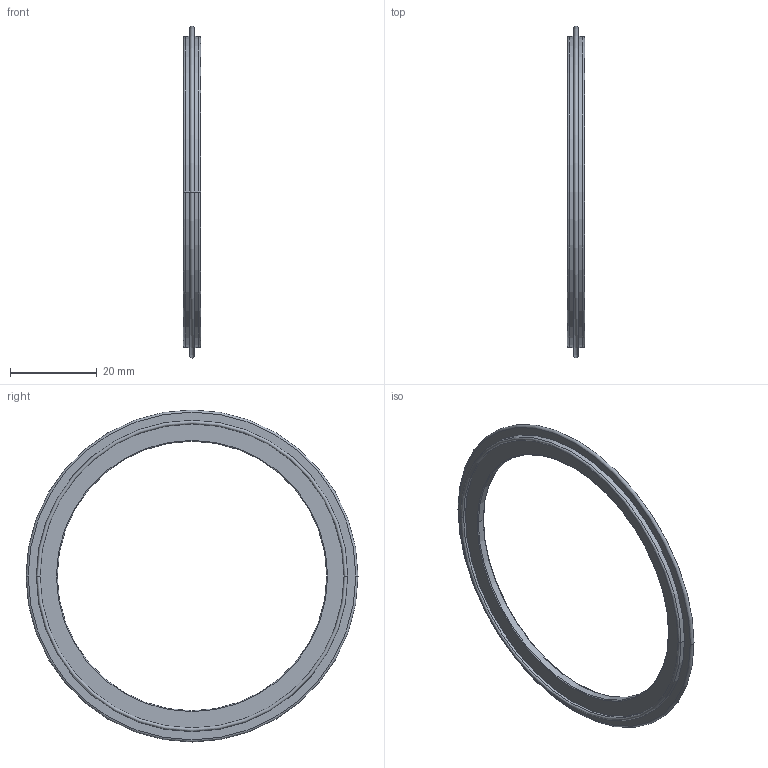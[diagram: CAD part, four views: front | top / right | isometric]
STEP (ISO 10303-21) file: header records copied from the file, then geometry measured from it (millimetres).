
FILE_DESCRIPTION((''),'2;1');
FILE_NAME('0UKP75_USZCZELKA_KANALU_PLASKA','2025-12-30T10:36:08',('niepogodzinskij'),(''),'CREO PARAMETRIC BY PTC INC, 2025010','CREO PARAMETRIC BY PTC INC, 2025010','');
FILE_SCHEMA(('CONFIG_CONTROL_DESIGN'));
Length unit declared in the file: millimetre
Products named in the file (1): 0UKP75_USZCZELKA_KANALU_PLASKA
Bounding box: 4 x 76.4 x 76.4 mm (x, y, z)
Volume: 2875.7 mm3; surface area: 4569.6 mm2
Topology: 1 solids, 1 shells, 24 faces, 48 edges, 28 vertices
Faces by surface type: torus 10, cone 8, plane 4, cylinder 2
Entity records: 676 total; most frequent: DIRECTION 134, CARTESIAN_POINT 100, ORIENTED_EDGE 96, AXIS2_PLACEMENT_3D 62, EDGE_CURVE 48, CIRCLE 38, VERTEX_POINT 28, EDGE_LOOP 28
